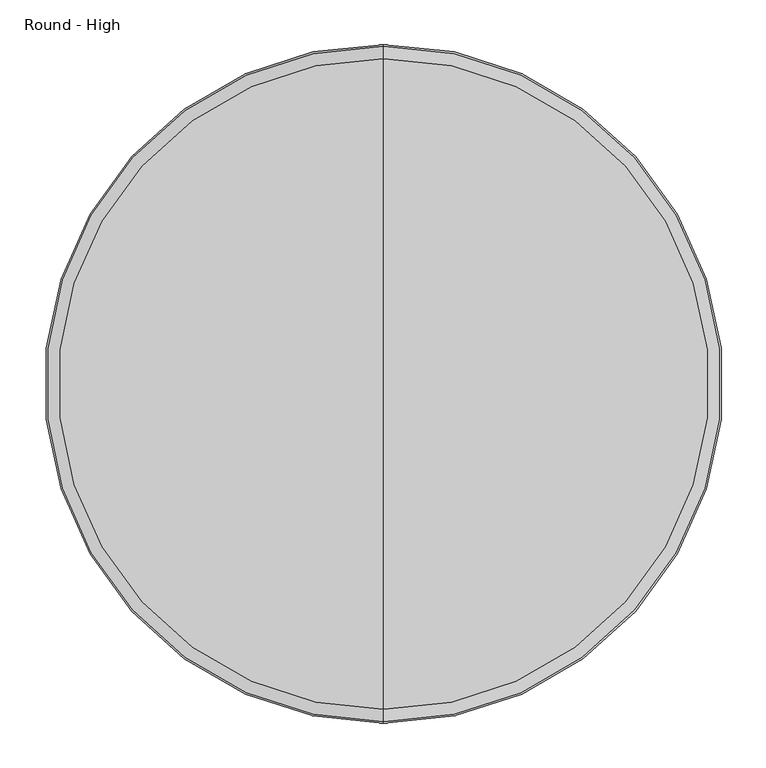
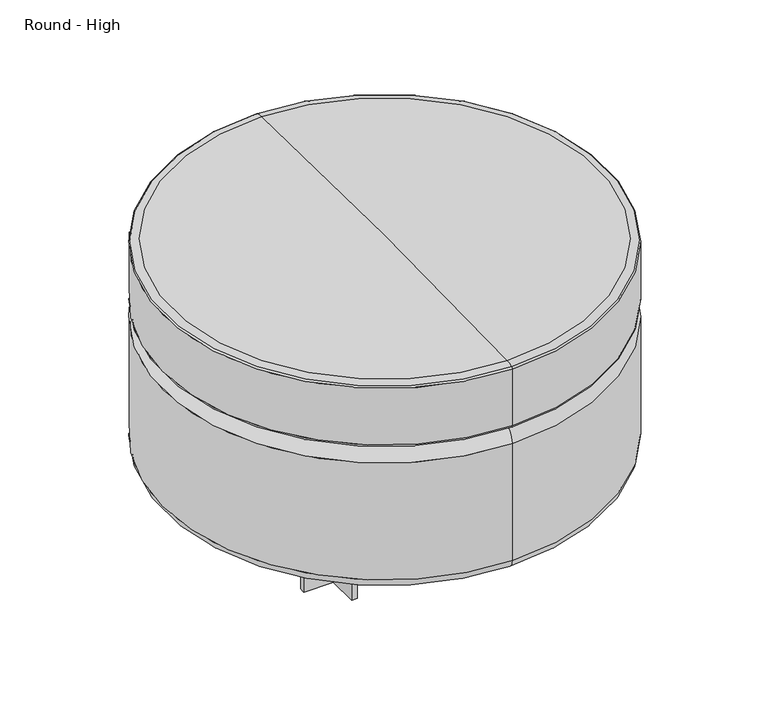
"""IFC4 building model written with IfcOpenShell, lengths in millimetres: furniture geometry, Steelcase Coalesse - Evaneau - Seating - Ottoman : Round - High."""

from ifc_helpers import new_model, si_unit, point, frame, origin, origin_with_axes, place, context, project, spatial, polyline, circle_curve, ellipse_curve, trimmed, outline, extrude, source, transform, mapped, element, save
from ifc_brep_helpers import plane_surface, cylinder_surface, revolved_surface, advanced_brep


def round_high_6d8b468d(model_context):
    return source(origin(), model_context, "Body", "SolidModel", [
        advanced_brep(
        [(-282.917922, 227.1907769, 432.6745231), (-282.917922, 957.8277123, 432.6745231), (-282.917922, 592.5092446, 439.1798466), (-282.917922, 213.3885688, 429.5544289), (-282.917922, 971.6299203, 429.5544289), (-282.917922, 211.4979081, 426.7352149), (-282.917922, 973.5205811, 426.7352149), (-282.917922, 211.4979081, 323.8640518), (-282.917922, 973.5205811, 323.8640518), (-282.917922, 215.8584713, 318.5508456), (-282.917922, 969.1600179, 318.5508456), (-282.917922, 237.223741, 316.3084), (-282.917922, 947.7947481, 316.3084), (-282.917922, 211.4979081, 290.91049), (-282.917922, 973.5205811, 290.91049), (-282.917922, 211.4979081, 78.5722435), (-282.917922, 973.5205811, 78.5722435), (-282.917922, 230.5479081, 59.5222435), (-282.917922, 954.4705811, 59.5222435), (-282.917922, 592.5092446, 59.5222435)],
        [
            (0, 1, circle_curve(frame((-282.917922, 592.5092446, 432.6745231), z_axis=(0.0, 0.0, 1.0), x_axis=(0.0, 1.0, 0.0)), 365.3184677)),
            (1, 2, circle_curve(frame((-282.917922, 688.5371821, -4429.0134501), z_axis=(1.0, 0.0, 0.0), x_axis=(0.0, -1.0, 0.0)), 4869.1403079)),
            (2, 0, circle_curve(frame((-282.917922, 496.4813071, -4429.0134501), z_axis=(1.0, 0.0, 0.0), x_axis=(0.0, 1.0, 0.0)), 4869.1403079)),
            (1, 0, circle_curve(frame((-282.917922, 592.5092446, 432.6745231), z_axis=(0.0, 0.0, 1.0), x_axis=(0.0, 1.0, 0.0)), 365.3184677)),
            (3, 4, circle_curve(frame((-282.917922, 592.5092446, 429.5544289), z_axis=(0.0, 0.0, 1.0), x_axis=(0.0, 1.0, 0.0)), 379.1206758)),
            (4, 1, circle_curve(frame((-282.917922, 955.4734915, 390.1721488), z_axis=(1.0, 0.0, 0.0), x_axis=(0.0, -1.0, 0.0)), 42.5675249)),
            (0, 3, circle_curve(frame((-282.917922, 229.5449977, 390.1721488), z_axis=(1.0, 0.0, 0.0), x_axis=(0.0, 1.0, 0.0)), 42.5675249)),
            (4, 3, circle_curve(frame((-282.917922, 592.5092446, 429.5544289), z_axis=(0.0, 0.0, 1.0), x_axis=(0.0, 1.0, 0.0)), 379.1206758)),
            (5, 6, circle_curve(frame((-282.917922, 592.5092446, 426.7352149), z_axis=(0.0, 0.0, 1.0), x_axis=(0.0, 1.0, 0.0)), 381.0113365)),
            (6, 4, circle_curve(frame((-282.917922, 970.4733486, 426.7352149), z_axis=(1.0, 0.0, 0.0), x_axis=(0.0, -1.0, 0.0)), 3.0472325)),
            (3, 5, circle_curve(frame((-282.917922, 214.5451405, 426.7352149), z_axis=(1.0, 0.0, 0.0), x_axis=(0.0, 1.0, 0.0)), 3.0472325)),
            (6, 5, circle_curve(frame((-282.917922, 592.5092446, 426.7352149), z_axis=(0.0, 0.0, 1.0), x_axis=(0.0, 1.0, 0.0)), 381.0113365)),
            (7, 8, circle_curve(frame((-282.917922, 592.5092446, 323.8640518), z_axis=(0.0, 0.0, 1.0), x_axis=(0.0, 1.0, 0.0)), 381.0113365)),
            (8, 6),
            (5, 7),
            (8, 7, circle_curve(frame((-282.917922, 592.5092446, 323.8640518), z_axis=(0.0, 0.0, 1.0), x_axis=(0.0, 1.0, 0.0)), 381.0113365)),
            (9, 10, circle_curve(frame((-282.917922, 592.5092446, 318.5508456), z_axis=(0.0, 0.0, 1.0), x_axis=(0.0, 1.0, 0.0)), 376.6507733)),
            (10, 8, circle_curve(frame((-282.917922, 968.1033139, 323.8640518), z_axis=(1.0, 0.0, 0.0), x_axis=(0.0, -1.0, 0.0)), 5.4172672)),
            (7, 9, circle_curve(frame((-282.917922, 216.9151752, 323.8640518), z_axis=(1.0, 0.0, 0.0), x_axis=(0.0, 1.0, 0.0)), 5.4172672)),
            (10, 9, circle_curve(frame((-282.917922, 592.5092446, 318.5508456), z_axis=(0.0, 0.0, 1.0), x_axis=(0.0, 1.0, 0.0)), 376.6507733)),
            (11, 12, circle_curve(frame((-282.917922, 592.5092446, 316.3084), z_axis=(0.0, 0.0, 1.0), x_axis=(0.0, 1.0, 0.0)), 355.2855035)),
            (12, 10, circle_curve(frame((-282.917922, 946.2907752, 433.5395359), z_axis=(1.0, 0.0, 0.0), x_axis=(0.0, -1.0, 0.0)), 117.2407828)),
            (9, 11, circle_curve(frame((-282.917922, 238.727714, 433.5395359), z_axis=(1.0, 0.0, 0.0), x_axis=(0.0, 1.0, 0.0)), 117.2407828)),
            (12, 11, circle_curve(frame((-282.917922, 592.5092446, 316.3084), z_axis=(0.0, 0.0, 1.0), x_axis=(0.0, 1.0, 0.0)), 355.2855035)),
            (13, 14, circle_curve(frame((-282.917922, 592.5092446, 290.91049), z_axis=(0.0, 0.0, 1.0), x_axis=(0.0, 1.0, 0.0)), 381.0113365)),
            (14, 12, circle_curve(frame((-282.917922, 948.1205811, 290.91049), z_axis=(1.0, 0.0, 0.0), x_axis=(0.0, -1.0, 0.0)), 25.4)),
            (11, 13, circle_curve(frame((-282.917922, 236.8979081, 290.91049), z_axis=(1.0, 0.0, 0.0), x_axis=(0.0, 1.0, 0.0)), 25.4)),
            (14, 13, circle_curve(frame((-282.917922, 592.5092446, 290.91049), z_axis=(0.0, 0.0, 1.0), x_axis=(0.0, 1.0, 0.0)), 381.0113365)),
            (15, 16, circle_curve(frame((-282.917922, 592.5092446, 78.5722435), z_axis=(0.0, 0.0, 1.0), x_axis=(0.0, 1.0, 0.0)), 381.0113365)),
            (16, 14),
            (13, 15),
            (16, 15, circle_curve(frame((-282.917922, 592.5092446, 78.5722435), z_axis=(0.0, 0.0, 1.0), x_axis=(0.0, 1.0, 0.0)), 381.0113365)),
            (17, 18, circle_curve(frame((-282.917922, 592.5092446, 59.5222435), z_axis=(0.0, 0.0, 1.0), x_axis=(0.0, 1.0, 0.0)), 361.9613365)),
            (18, 16, circle_curve(frame((-282.917922, 954.4705811, 78.5722435), z_axis=(1.0, 0.0, 0.0), x_axis=(0.0, -1.0, 0.0)), 19.05)),
            (15, 17, circle_curve(frame((-282.917922, 230.5479081, 78.5722435), z_axis=(1.0, 0.0, 0.0), x_axis=(0.0, 1.0, 0.0)), 19.05)),
            (18, 17, circle_curve(frame((-282.917922, 592.5092446, 59.5222435), z_axis=(0.0, 0.0, 1.0), x_axis=(0.0, 1.0, 0.0)), 361.9613365)),
            (19, 18),
            (17, 19),
        ],
        [
            revolved_surface(trimmed(ellipse_curve(frame((-282.917922, 688.5371821, -4429.0134501), z_axis=(-1.0, 0.0, 0.0), x_axis=(0.0, -1.0, 0.0)), 4869.1403079, 4869.1403079), [point((-282.917922, 592.5092446, 439.1798466))], [point((-282.917922, 957.8277123, 432.6745231))], True, "CARTESIAN"), (-282.917922, 592.5092446, 59.5222435), (0.0, 0.0, -1.0)),
            revolved_surface(trimmed(ellipse_curve(frame((-282.917922, 955.4734915, 390.1721488), z_axis=(-1.0, 0.0, 0.0), x_axis=(0.0, -1.0, 0.0)), 42.5675249, 42.5675249), [point((-282.917922, 957.8277123, 432.6745231))], [point((-282.917922, 971.6299203, 429.5544289))], True, "CARTESIAN"), (-282.917922, 592.5092446, 59.5222435), (0.0, 0.0, -1.0)),
            revolved_surface(trimmed(ellipse_curve(frame((-282.917922, 970.4733486, 426.7352149), z_axis=(-1.0, 0.0, 0.0), x_axis=(0.0, -1.0, 0.0)), 3.0472325, 3.0472325), [point((-282.917922, 971.6299203, 429.5544289))], [point((-282.917922, 973.5205811, 426.7352149))], True, "CARTESIAN"), (-282.917922, 592.5092446, 59.5222435), (0.0, 0.0, -1.0)),
            cylinder_surface(frame((-282.917922, 592.5092446, 59.5222435), z_axis=(0.0, 0.0, -1.0), x_axis=(0.0, 1.0, 0.0)), 381.0113365),
            revolved_surface(trimmed(ellipse_curve(frame((-282.917922, 968.1033139, 323.8640518), z_axis=(-1.0, 0.0, 0.0), x_axis=(0.0, -1.0, 0.0)), 5.4172672, 5.4172672), [point((-282.917922, 973.5205811, 323.8640518))], [point((-282.917922, 969.1600179, 318.5508456))], True, "CARTESIAN"), (-282.917922, 592.5092446, 59.5222435), (0.0, 0.0, -1.0)),
            revolved_surface(trimmed(ellipse_curve(frame((-282.917922, 946.2907752, 433.5395359), z_axis=(-1.0, 0.0, 0.0), x_axis=(0.0, -1.0, 0.0)), 117.2407828, 117.2407828), [point((-282.917922, 969.1600179, 318.5508456))], [point((-282.917922, 947.7947481, 316.3084))], True, "CARTESIAN"), (-282.917922, 592.5092446, 59.5222435), (0.0, 0.0, -1.0)),
            revolved_surface(trimmed(ellipse_curve(frame((-282.917922, 948.1205811, 290.91049), z_axis=(-1.0, 0.0, 0.0), x_axis=(0.0, -1.0, 0.0)), 25.4, 25.4), [point((-282.917922, 947.7947481, 316.3084))], [point((-282.917922, 973.5205811, 290.91049))], True, "CARTESIAN"), (-282.917922, 592.5092446, 59.5222435), (0.0, 0.0, -1.0)),
            revolved_surface(trimmed(ellipse_curve(frame((-282.917922, 954.4705811, 78.5722435), z_axis=(-1.0, 0.0, 0.0), x_axis=(0.0, -1.0, 0.0)), 19.05, 19.05), [point((-282.917922, 973.5205811, 78.5722435))], [point((-282.917922, 954.4705811, 59.5222435))], True, "CARTESIAN"), (-282.917922, 592.5092446, 59.5222435), (0.0, 0.0, -1.0)),
            plane_surface(frame((-282.917922, 592.5092446, 59.5222435), z_axis=(0.0, 0.0, -1.0), x_axis=(0.0, 1.0, 0.0))),
        ],
        [
            (0, [[1, 2, 3]]),
            (0, [[4, -3, -2]]),
            (1, [[5, 6, -1, 7]]),
            (1, [[8, -7, -4, -6]]),
            (2, [[9, 10, -5, 11]]),
            (2, [[12, -11, -8, -10]]),
            (3, [[13, 14, -9, 15]]),
            (3, [[16, -15, -12, -14]]),
            (4, [[17, 18, -13, 19]]),
            (4, [[20, -19, -16, -18]]),
            (5, [[21, 22, -17, 23]]),
            (5, [[24, -23, -20, -22]]),
            (6, [[25, 26, -21, 27]]),
            (6, [[28, -27, -24, -26]]),
            (3, [[29, 30, -25, 31]]),
            (3, [[32, -31, -28, -30]]),
            (7, [[33, 34, -29, 35]]),
            (7, [[36, -35, -32, -34]]),
            (8, [[37, -33, 38]]),
            (8, [[-38, -36, -37]]),
        ],
    ),
        extrude(outline(polyline([(-476.9603815, 786.3240132), (-540.4603573, 786.3240616), (-540.4603573, 795.8487225), (-486.4853815, 795.8487225), (-486.4853815, 846.8845728), (-476.9603815, 846.8845728), (-476.9603815, 786.3240132)])), origin_with_axes(), (0.0, 0.0, 1.0), 59.6281901),
        extrude(outline(polyline([(-476.9603331, 401.9007241), (-476.9603331, 338.4007483), (-486.4850182, 338.4007483), (-486.4850182, 392.3757241), (-537.2850182, 392.3757241), (-537.2850182, 401.9007241), (-476.9603331, 401.9007241)])), origin_with_axes(), (0.0, 0.0, 1.0), 59.6281901),
        extrude(outline(polyline([(-86.1862688, 786.3240152), (-86.1862688, 849.8241101), (-76.6615837, 849.8241101), (-76.6615837, 795.8487225), (-25.8615837, 795.8487225), (-25.8615837, 786.3240613), (-86.1862688, 786.3240152)])), origin_with_axes(), (0.0, 0.0, 1.0), 59.6281901),
        extrude(outline(polyline([(-86.1862325, 401.9007241), (-22.6862688, 401.9007241), (-22.6862688, 392.3757241), (-76.6612446, 392.3757241), (-76.6612446, 341.5760874), (-86.1862567, 341.5760896), (-86.1862325, 401.9007241)])), origin_with_axes(), (0.0, 0.0, 1.0), 59.6281901),
    ])


if __name__ == "__main__":
    model = new_model("IFC4")
    model_context = context("Model", 3, world=origin())
    ifc_project = project(units=[si_unit("LENGTHUNIT", "METRE", prefix="MILLI")], contexts=[model_context])
    site = spatial("IfcSite", under=ifc_project)
    building = spatial("IfcBuilding", under=site)
    placement = place(None, origin())
    round_high_shape = round_high_6d8b468d(model_context)
    element("IfcFurniture", 1, ObjectType="Steelcase Coalesse - Evaneau - Seating - Ottoman : Round - High", at=placement, inside=building, context=model_context, shape_type="MappedRepresentation", body=[
        mapped(round_high_shape, transform((0.0, 0.0, 0.0), x_axis=(1.0, 0.0, 0.0), y_axis=(0.0, 1.0, 0.0), z_axis=(0.0, 0.0, 1.0))),
    ])
    save(model, "model.ifc")
